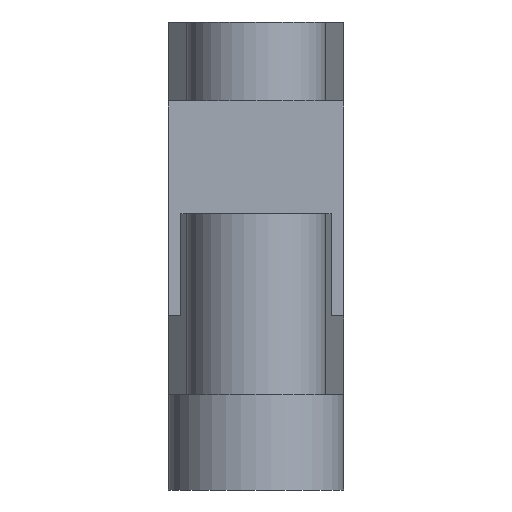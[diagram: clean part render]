
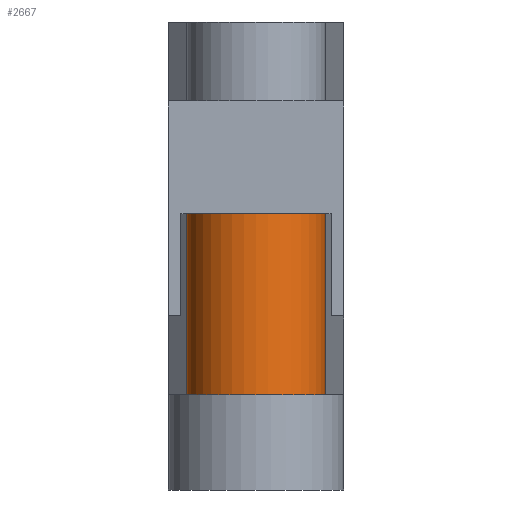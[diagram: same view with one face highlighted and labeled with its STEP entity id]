
A CAD part, front view. The second image highlights one B-rep face of the part: STEP entity #2667.
In plain terms, the highlighted cylindrical face has radius 4.75 mm (diameter 9.5 mm), a partial arc.
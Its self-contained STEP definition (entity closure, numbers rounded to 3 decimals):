
#481 = PLANE('',#482);
#482 = AXIS2_PLACEMENT_3D('',#483,#484,#485);
#483 = CARTESIAN_POINT('',(0.,0.,-13.1));
#484 = DIRECTION('',(-0.,0.,1.));
#485 = DIRECTION('',(1.,0.,0.));
#844 = PLANE('',#845);
#845 = AXIS2_PLACEMENT_3D('',#846,#847,#848);
#846 = CARTESIAN_POINT('',(1.231,0.154,0.));
#847 = DIRECTION('',(-0.992,-0.124,0.));
#848 = DIRECTION('',(0.124,-0.992,0.));
#894 = PLANE('',#895);
#895 = AXIS2_PLACEMENT_3D('',#896,#897,#898);
#896 = CARTESIAN_POINT('',(10.585,-1.323,0.));
#897 = DIRECTION('',(-0.992,0.124,0.));
#898 = DIRECTION('',(-0.124,-0.992,0.));
#1153 = PLANE('',#1154);
#1154 = AXIS2_PLACEMENT_3D('',#1155,#1156,#1157);
#1155 = CARTESIAN_POINT('',(6.,0.,-25.5));
#1156 = DIRECTION('',(-0.,0.,-1.));
#1157 = DIRECTION('',(-1.,0.,0.));
#1485 = EDGE_CURVE('',#1486,#1488,#1490,.T.);
#1486 = VERTEX_POINT('',#1487);
#1487 = CARTESIAN_POINT('',(10.75,0.,-25.5));
#1488 = VERTEX_POINT('',#1489);
#1489 = CARTESIAN_POINT('',(1.25,0.,-25.5));
#1490 = SURFACE_CURVE('',#1491,(#1496,#1503),.PCURVE_S1.);
#1491 = CIRCLE('',#1492,4.75);
#1492 = AXIS2_PLACEMENT_3D('',#1493,#1494,#1495);
#1493 = CARTESIAN_POINT('',(6.,0.,-25.5));
#1494 = DIRECTION('',(0.,0.,-1.));
#1495 = DIRECTION('',(-1.,0.,0.));
#1496 = PCURVE('',#1153,#1497);
#1497 = DEFINITIONAL_REPRESENTATION('',(#1498),#1502);
#1498 = CIRCLE('',#1499,4.75);
#1499 = AXIS2_PLACEMENT_2D('',#1500,#1501);
#1500 = CARTESIAN_POINT('',(0.,0.));
#1501 = DIRECTION('',(1.,0.));
#1502 = ( GEOMETRIC_REPRESENTATION_CONTEXT(2) 
PARAMETRIC_REPRESENTATION_CONTEXT() REPRESENTATION_CONTEXT('2D SPACE',''
  ) );
#1503 = PCURVE('',#1504,#1509);
#1504 = CYLINDRICAL_SURFACE('',#1505,4.75);
#1505 = AXIS2_PLACEMENT_3D('',#1506,#1507,#1508);
#1506 = CARTESIAN_POINT('',(6.,0.,0.));
#1507 = DIRECTION('',(-0.,-0.,-1.));
#1508 = DIRECTION('',(-1.,0.,0.));
#1509 = DEFINITIONAL_REPRESENTATION('',(#1510),#1514);
#1510 = LINE('',#1511,#1512);
#1511 = CARTESIAN_POINT('',(0.,25.5));
#1512 = VECTOR('',#1513,1.);
#1513 = DIRECTION('',(1.,0.));
#1514 = ( GEOMETRIC_REPRESENTATION_CONTEXT(2) 
PARAMETRIC_REPRESENTATION_CONTEXT() REPRESENTATION_CONTEXT('2D SPACE',''
  ) );
#1992 = VERTEX_POINT('',#1993);
#1993 = CARTESIAN_POINT('',(1.25,0.,-13.1));
#2014 = EDGE_CURVE('',#1992,#2015,#2017,.T.);
#2015 = VERTEX_POINT('',#2016);
#2016 = CARTESIAN_POINT('',(10.75,0.,-13.1));
#2017 = SURFACE_CURVE('',#2018,(#2023,#2030),.PCURVE_S1.);
#2018 = CIRCLE('',#2019,4.75);
#2019 = AXIS2_PLACEMENT_3D('',#2020,#2021,#2022);
#2020 = CARTESIAN_POINT('',(6.,0.,-13.1));
#2021 = DIRECTION('',(-0.,0.,1.));
#2022 = DIRECTION('',(1.,0.,0.));
#2023 = PCURVE('',#481,#2024);
#2024 = DEFINITIONAL_REPRESENTATION('',(#2025),#2029);
#2025 = CIRCLE('',#2026,4.75);
#2026 = AXIS2_PLACEMENT_2D('',#2027,#2028);
#2027 = CARTESIAN_POINT('',(6.,0.));
#2028 = DIRECTION('',(1.,0.));
#2029 = ( GEOMETRIC_REPRESENTATION_CONTEXT(2) 
PARAMETRIC_REPRESENTATION_CONTEXT() REPRESENTATION_CONTEXT('2D SPACE',''
  ) );
#2030 = PCURVE('',#1504,#2031);
#2031 = DEFINITIONAL_REPRESENTATION('',(#2032),#2036);
#2032 = LINE('',#2033,#2034);
#2033 = CARTESIAN_POINT('',(9.425,13.1));
#2034 = VECTOR('',#2035,1.);
#2035 = DIRECTION('',(-1.,0.));
#2036 = ( GEOMETRIC_REPRESENTATION_CONTEXT(2) 
PARAMETRIC_REPRESENTATION_CONTEXT() REPRESENTATION_CONTEXT('2D SPACE',''
  ) );
#2615 = EDGE_CURVE('',#2015,#1486,#2616,.T.);
#2616 = SURFACE_CURVE('',#2617,(#2621,#2628),.PCURVE_S1.);
#2617 = LINE('',#2618,#2619);
#2618 = CARTESIAN_POINT('',(10.75,0.,0.));
#2619 = VECTOR('',#2620,1.);
#2620 = DIRECTION('',(-0.,-0.,-1.));
#2621 = PCURVE('',#894,#2622);
#2622 = DEFINITIONAL_REPRESENTATION('',(#2623),#2627);
#2623 = LINE('',#2624,#2625);
#2624 = CARTESIAN_POINT('',(-1.333,0.));
#2625 = VECTOR('',#2626,1.);
#2626 = DIRECTION('',(0.,-1.));
#2627 = ( GEOMETRIC_REPRESENTATION_CONTEXT(2) 
PARAMETRIC_REPRESENTATION_CONTEXT() REPRESENTATION_CONTEXT('2D SPACE',''
  ) );
#2628 = PCURVE('',#1504,#2629);
#2629 = DEFINITIONAL_REPRESENTATION('',(#2630),#2634);
#2630 = LINE('',#2631,#2632);
#2631 = CARTESIAN_POINT('',(3.142,0.));
#2632 = VECTOR('',#2633,1.);
#2633 = DIRECTION('',(0.,1.));
#2634 = ( GEOMETRIC_REPRESENTATION_CONTEXT(2) 
PARAMETRIC_REPRESENTATION_CONTEXT() REPRESENTATION_CONTEXT('2D SPACE',''
  ) );
#2645 = EDGE_CURVE('',#1992,#1488,#2646,.T.);
#2646 = SURFACE_CURVE('',#2647,(#2651,#2658),.PCURVE_S1.);
#2647 = LINE('',#2648,#2649);
#2648 = CARTESIAN_POINT('',(1.25,0.,0.));
#2649 = VECTOR('',#2650,1.);
#2650 = DIRECTION('',(-0.,-0.,-1.));
#2651 = PCURVE('',#844,#2652);
#2652 = DEFINITIONAL_REPRESENTATION('',(#2653),#2657);
#2653 = LINE('',#2654,#2655);
#2654 = CARTESIAN_POINT('',(0.155,0.));
#2655 = VECTOR('',#2656,1.);
#2656 = DIRECTION('',(0.,-1.));
#2657 = ( GEOMETRIC_REPRESENTATION_CONTEXT(2) 
PARAMETRIC_REPRESENTATION_CONTEXT() REPRESENTATION_CONTEXT('2D SPACE',''
  ) );
#2658 = PCURVE('',#1504,#2659);
#2659 = DEFINITIONAL_REPRESENTATION('',(#2660),#2664);
#2660 = LINE('',#2661,#2662);
#2661 = CARTESIAN_POINT('',(6.283,0.));
#2662 = VECTOR('',#2663,1.);
#2663 = DIRECTION('',(0.,1.));
#2664 = ( GEOMETRIC_REPRESENTATION_CONTEXT(2) 
PARAMETRIC_REPRESENTATION_CONTEXT() REPRESENTATION_CONTEXT('2D SPACE',''
  ) );
#2667 = ADVANCED_FACE('',(#2668),#1504,.T.);
#2668 = FACE_BOUND('',#2669,.T.);
#2669 = EDGE_LOOP('',(#2670,#2671,#2672,#2673));
#2670 = ORIENTED_EDGE('',*,*,#2645,.T.);
#2671 = ORIENTED_EDGE('',*,*,#1485,.F.);
#2672 = ORIENTED_EDGE('',*,*,#2615,.F.);
#2673 = ORIENTED_EDGE('',*,*,#2014,.F.);
